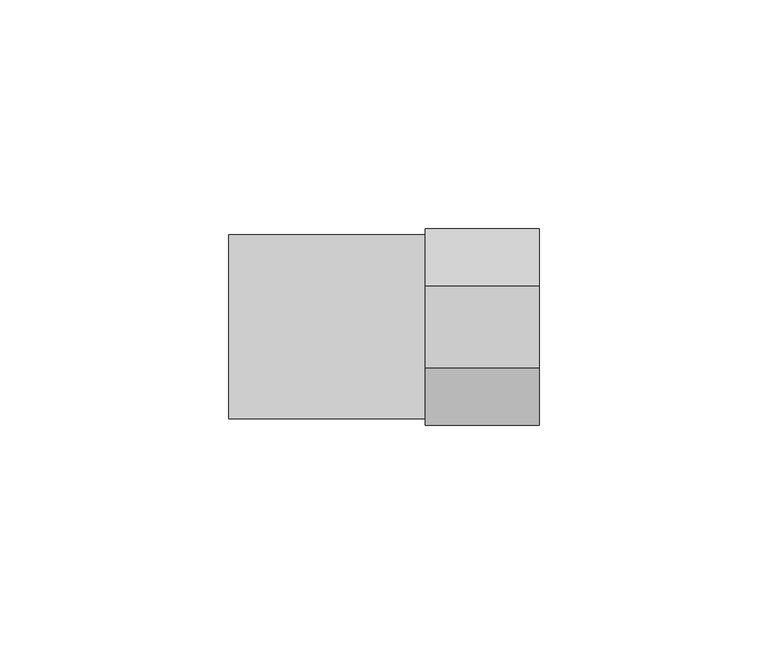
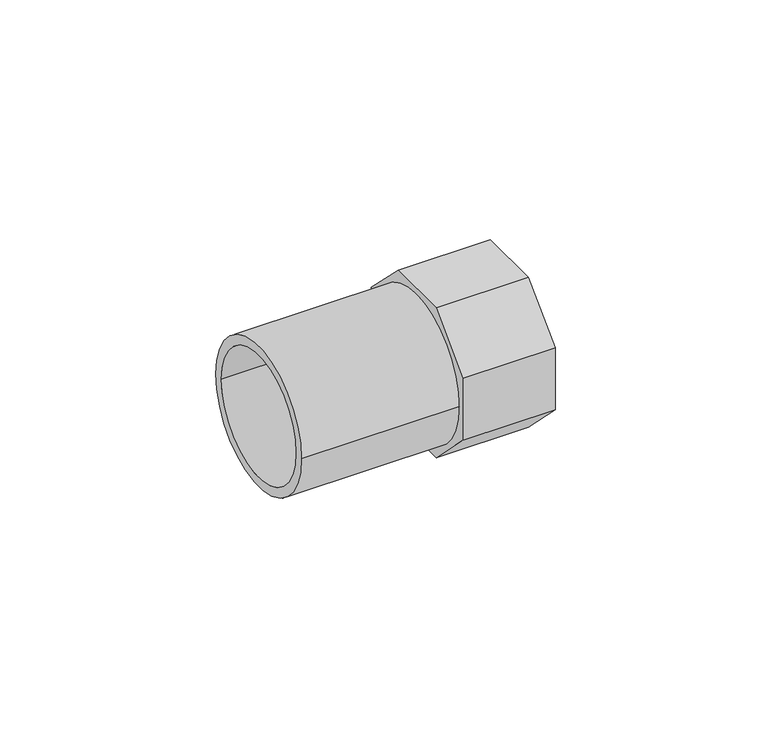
"""IFC4 building model written with IfcOpenShell, lengths in millimetres: pipe fitting geometry, VALTEC_VTi.907.I_Вставка с внутренней резьбой_Нержавеющая сталь : VTi.907.I."""

from ifc_helpers import new_model, si_unit, point, frame, origin, origin_2d, place, context, project, spatial, polyline, circle_curve, trimmed, segment, composite_curve, outline, extrude, source, transform, mapped, element, save


def pipe_fitting_a2b05165(model_context):
    return source(origin(), model_context, "Body", "SweptSolid", [
        extrude(outline(polyline([(8.9055916, 21.5), (21.5, 8.9055916), (21.5, -8.9055916), (8.9055916, -21.5), (-8.9055916, -21.5), (-21.5, -8.9055916), (-21.5, 8.9055916), (-8.9055916, 21.5), (8.9055916, 21.5)]), holes=[composite_curve([segment(trimmed(circle_curve(origin_2d(), 16.0), [point((-16.0, 0.0))], [point((16.0, 0.0))], True, "CARTESIAN"), True, "CONTINUOUS"), segment(trimmed(circle_curve(origin_2d(), 16.0), [point((16.0, 0.0))], [point((-16.0, 0.0))], True, "CARTESIAN"), True, "CONTINUOUS")], self_intersect=False)]), frame((-12.5, 0.0, 0.0), z_axis=(1.0, 0.0, 0.0), x_axis=(0.0, 1.0, 0.0)), (0.0, 0.0, 1.0), 25.0),
        extrude(outline(composite_curve([segment(trimmed(circle_curve(origin_2d(), 20.125), [point((-20.125, 0.0))], [point((20.125, 0.0))], False, "CARTESIAN"), True, "CONTINUOUS"), segment(trimmed(circle_curve(origin_2d(), 20.125), [point((20.125, 0.0))], [point((-20.125, 0.0))], False, "CARTESIAN"), True, "CONTINUOUS")], self_intersect=False), holes=[composite_curve([segment(trimmed(circle_curve(origin_2d(), 17.5), [point((-17.5, 0.0))], [point((17.5, 0.0))], True, "CARTESIAN"), True, "CONTINUOUS"), segment(trimmed(circle_curve(origin_2d(), 17.5), [point((17.5, 0.0))], [point((-17.5, 0.0))], True, "CARTESIAN"), True, "CONTINUOUS")], self_intersect=False)]), frame((-55.5, 0.0, 0.0), z_axis=(1.0, 0.0, 0.0), x_axis=(0.0, 1.0, 0.0)), (0.0, 0.0, 1.0), 43.0),
    ])


if __name__ == "__main__":
    model = new_model("IFC4")
    model_context = context("Model", 3, world=origin())
    ifc_project = project(units=[si_unit("LENGTHUNIT", "METRE", prefix="MILLI")], contexts=[model_context])
    site = spatial("IfcSite", under=ifc_project)
    building = spatial("IfcBuilding", under=site)
    placement = place(None, origin())
    pipe_fitting_shape = pipe_fitting_a2b05165(model_context)
    element("IfcPipeFitting", 1, ObjectType="VALTEC_VTi.907.I_Вставка с внутренней резьбой_Нержавеющая сталь : VTi.907.I", at=placement, inside=building, context=model_context, shape_type="MappedRepresentation", body=[
        mapped(pipe_fitting_shape, transform((0.0, 0.0, 0.0), x_axis=(1.0, 0.0, 0.0), y_axis=(0.0, 1.0, 0.0), z_axis=(0.0, 0.0, 1.0))),
    ])
    save(model, "model.ifc")
